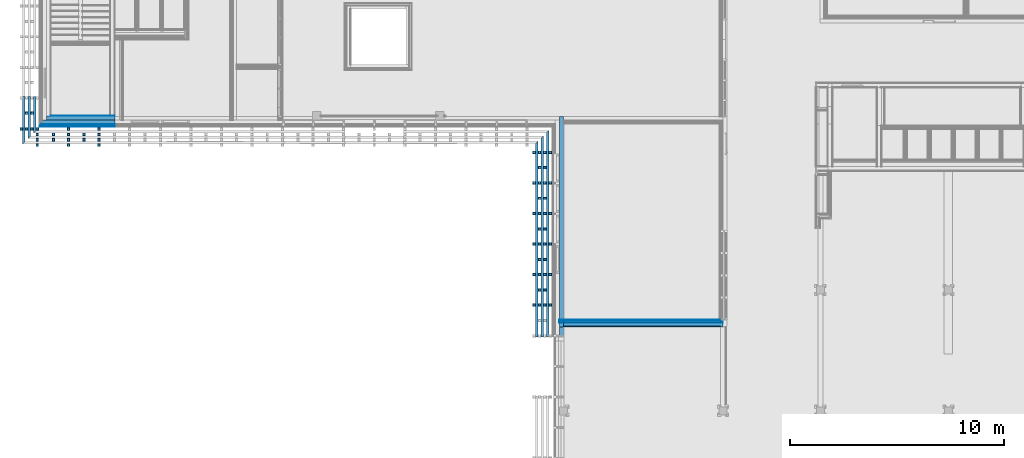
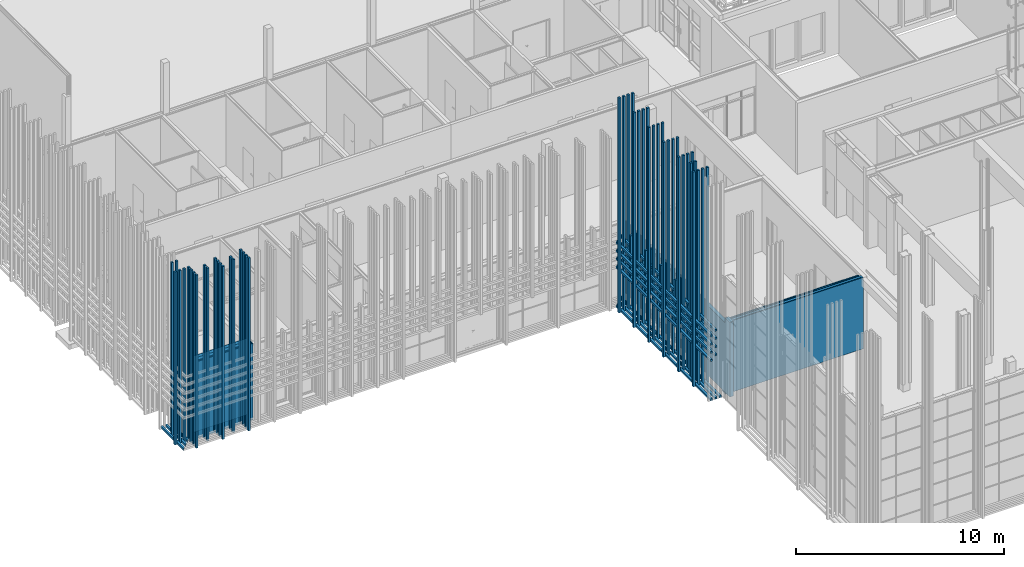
# One storey, part 147 of 260: 24 discrete accessories, 15 building element parts, 4 openings, 3 elements without a shape of their own.
"""IFC2X3 building model written with IfcOpenShell, lengths in millimetres."""

from ifc_helpers import new_model, entity, si_unit, converted_unit, derived_unit, money_unit, direction, frame, origin_with_axes, place, context, subcontext, project, spatial, faceted_brep, material, material_list, type_object, element, aggregate, save


model = new_model("IFC2X3")

# Units and contexts
model_context = context("Model", 3, precision=0.01, world=origin_with_axes(), true_north=direction((0.0, 1.0)))
body_context = subcontext(model_context, "Body", "Model", "MODEL_VIEW")
ifc_project = project(units=[si_unit("LENGTHUNIT", "METRE", prefix="MILLI"), si_unit("AREAUNIT", "SQUARE_METRE"), si_unit("VOLUMEUNIT", "CUBIC_METRE"), converted_unit("PLANEANGLEUNIT", "DEGREE", entity("IfcPlaneAngleMeasure", 0.0174532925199), si_unit("PLANEANGLEUNIT", "RADIAN"), dimensions=[0, 0, 0, 0, 0, 0, 0]), money_unit("EUR"), converted_unit("TIMEUNIT", "Year", entity("IfcTimeMeasure", 31556926.0), si_unit("TIMEUNIT", "SECOND"), dimensions=[0, 0, 1, 0, 0, 0, 0]), si_unit("MASSUNIT", "GRAM", prefix="KILO"), si_unit("THERMODYNAMICTEMPERATUREUNIT", "DEGREE_CELSIUS"), si_unit("LUMINOUSINTENSITYUNIT", "LUMEN"), si_unit("ENERGYUNIT", "JOULE", prefix="MEGA"), derived_unit("THERMALCONDUCTANCEUNIT", [(si_unit("POWERUNIT", "WATT"), 1), (si_unit("LENGTHUNIT", "METRE"), -1), (si_unit("THERMODYNAMICTEMPERATUREUNIT", "KELVIN"), -1)]), derived_unit("SPECIFICHEATCAPACITYUNIT", [(si_unit("ENERGYUNIT", "JOULE"), 1), (si_unit("MASSUNIT", "GRAM", prefix="KILO"), -1), (si_unit("THERMODYNAMICTEMPERATUREUNIT", "KELVIN"), -1)]), derived_unit("MASSDENSITYUNIT", [(si_unit("MASSUNIT", "GRAM", prefix="KILO"), 1), (si_unit("VOLUMEUNIT", "CUBIC_METRE"), -1)])], contexts=[model_context])

# Site, building, storey
site_placement = place(None, origin_with_axes())
site = spatial("IfcSite", under=ifc_project, at=site_placement, Name="Kolde pst 67a", CompositionType="ELEMENT")
building_placement = place(site_placement, origin_with_axes())
building = spatial("IfcBuilding", under=site, at=building_placement, Name="Riigigümnaasium", CompositionType="ELEMENT")
storey_placement = place(building_placement, origin_with_axes())
storey = spatial("IfcBuildingStorey", under=building, at=storey_placement, Name="1. korrus", CompositionType="ELEMENT", Elevation=0.0)

# Discrete accessories
ifc_material_1 = material(Name="_VÄLISVIIMISTLUS - sõrmjätkatud puitprussid 120x115mm, liitekohad vähemärgatavad, Platowood sõrmjätkatud kuusk või samaväärne; eeltöödeldud tuletõkkevõõbaga, tuletundlikkus B-s1, d0, Woodsafe Exterior WFX™ või samaväärne; kinnitused vastavalt EK osale")
ifc_material_list_1 = material_list([ifc_material_1, ifc_material_1, ifc_material_1, ifc_material_1])
discrete_accessory_type_1 = type_object("IfcDiscreteAccessoryType", Name="120 4-ne vertikaalne 870 x 115")
for number, where, z_axis, x_axis in (
    (1, (-310.003212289, 47630.6759201, 280.0), (0.0, 0.0, 1.0), (0.999999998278, -5.86859191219e-05, 0.0)),
    (2, (1067.50074689, 47693.6740421, 280.0), (0.0, 0.0, 1.0), (5.86859191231e-05, 0.999999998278, 0.0)),
    (3, (2497.50220495, 47693.6206398, 280.0), (0.0, 0.0, 1.0), (5.86859191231e-05, 0.999999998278, 0.0)),
):
    element("IfcDiscreteAccessory", number, at=place(storey_placement, frame(where, z_axis=z_axis, x_axis=x_axis)), inside=storey, type_object=discrete_accessory_type_1, material=ifc_material_list_1, Name="Päikesevarjestus", context=body_context, shape_type="Brep", body=[
        faceted_brep([(-133.0, -70.0, 0.0), (-13.0, -70.0, 0.0), (-13.0, -70.0, 10140.0), (-133.0, -70.0, 10140.0), (-133.0, 45.0, 0.0), (-13.0, 45.0, 0.0), (-13.0, 45.0, 10140.0), (-133.0, 45.0, 10140.0)], [[[0, 1, 2, 3]], [[0, 4, 5, 1]], [[1, 5, 6, 2]], [[3, 2, 6, 7]], [[4, 0, 3, 7]], [[5, 4, 7, 6]]]),
        faceted_brep([(-383.0, -70.0, 0.0), (-263.0, -70.0, 0.0), (-263.0, -70.0, 10140.0), (-383.0, -70.0, 10140.0), (-383.0, 45.0, 0.0), (-263.0, 45.0, 0.0), (-263.0, 45.0, 10140.0), (-383.0, 45.0, 10140.0)], [[[0, 1, 2, 3]], [[0, 4, 5, 1]], [[1, 5, 6, 2]], [[3, 2, 6, 7]], [[4, 0, 3, 7]], [[5, 4, 7, 6]]]),
        faceted_brep([(-633.0, -70.0, 0.0), (-513.0, -70.0, 0.0), (-513.0, -70.0, 10140.0), (-633.0, -70.0, 10140.0), (-633.0, 45.0, 0.0), (-513.0, 45.0, 0.0), (-513.0, 45.0, 10140.0), (-633.0, 45.0, 10140.0)], [[[0, 1, 2, 3]], [[0, 4, 5, 1]], [[1, 5, 6, 2]], [[3, 2, 6, 7]], [[4, 0, 3, 7]], [[5, 4, 7, 6]]]),
        faceted_brep([(-883.0, -70.0, 0.0), (-763.0, -70.0, 0.0), (-763.0, -70.0, 10140.0), (-883.0, -70.0, 10140.0), (-883.0, 45.0, 0.0), (-763.0, 45.0, 0.0), (-763.0, 45.0, 10140.0), (-883.0, 45.0, 10140.0)], [[[0, 1, 2, 3]], [[0, 4, 5, 1]], [[1, 5, 6, 2]], [[3, 2, 6, 7]], [[4, 0, 3, 7]], [[5, 4, 7, 6]]]),
    ])
for number, where, z_axis, x_axis in (
    (4, (23688.0028833, 39393.0027259, 280.0), (0.0, 0.0, 1.0), (0.999999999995, 3.13999128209e-06, 0.0)),
    (5, (23688.0027342, 42253.0031576, 280.0), (0.0, 0.0, 1.0), (0.999999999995, 3.13999128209e-06, 0.0)),
    (6, (23688.0060415, 43683.0036089, 280.0), (0.0, 0.0, 1.0), (0.999999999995, 3.13999128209e-06, 0.0)),
    (7, (23688.0060415, 45113.0036089, 280.0), (0.0, 0.0, 1.0), (0.999999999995, 3.13999128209e-06, 0.0)),
    (8, (23688.0060415, 46543.0036033, 280.0), (0.0, 0.0, 1.0), (0.999999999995, 3.13999128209e-06, 0.0)),
    (9, (23688.0060415, 40823.0027197, 280.0), (0.0, 0.0, 1.0), (0.999999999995, 3.13999128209e-06, 0.0)),
):
    element("IfcDiscreteAccessory", number, at=place(storey_placement, frame(where, z_axis=z_axis, x_axis=x_axis)), inside=storey, type_object=discrete_accessory_type_1, material=ifc_material_list_1, Name="Päikesevarjestus", context=body_context, shape_type="Brep", body=[
        faceted_brep([(-133.0, -70.0, 0.0), (-13.0, -70.0, 0.0), (-13.0, -70.0, 12600.0), (-133.0, -70.0, 12600.0), (-133.0, 45.0, 0.0), (-13.0, 45.0, 0.0), (-13.0, 45.0, 12600.0), (-133.0, 45.0, 12600.0)], [[[0, 1, 2, 3]], [[0, 4, 5, 1]], [[1, 5, 6, 2]], [[3, 2, 6, 7]], [[4, 0, 3, 7]], [[5, 4, 7, 6]]]),
        faceted_brep([(-383.0, -70.0, 0.0), (-263.0, -70.0, 0.0), (-263.0, -70.0, 12600.0), (-383.0, -70.0, 12600.0), (-383.0, 45.0, 0.0), (-263.0, 45.0, 0.0), (-263.0, 45.0, 12600.0), (-383.0, 45.0, 12600.0)], [[[0, 1, 2, 3]], [[0, 4, 5, 1]], [[1, 5, 6, 2]], [[3, 2, 6, 7]], [[4, 0, 3, 7]], [[5, 4, 7, 6]]]),
        faceted_brep([(-633.0, -70.0, 0.0), (-513.0, -70.0, 0.0), (-513.0, -70.0, 12600.0), (-633.0, -70.0, 12600.0), (-633.0, 45.0, 0.0), (-513.0, 45.0, 0.0), (-513.0, 45.0, 12600.0), (-633.0, 45.0, 12600.0)], [[[0, 1, 2, 3]], [[0, 4, 5, 1]], [[1, 5, 6, 2]], [[3, 2, 6, 7]], [[4, 0, 3, 7]], [[5, 4, 7, 6]]]),
        faceted_brep([(-883.0, -70.0, 0.0), (-763.0, -70.0, 0.0), (-763.0, -70.0, 12600.0), (-883.0, -70.0, 12600.0), (-883.0, 45.0, 0.0), (-763.0, 45.0, 0.0), (-763.0, 45.0, 12600.0), (-883.0, 45.0, 12600.0)], [[[0, 1, 2, 3]], [[0, 4, 5, 1]], [[1, 5, 6, 2]], [[3, 2, 6, 7]], [[4, 0, 3, 7]], [[5, 4, 7, 6]]]),
    ])
ifc_material_list_2 = material_list([ifc_material_1, ifc_material_1, ifc_material_1])
discrete_accessory_type_2 = type_object("IfcDiscreteAccessoryType", Name="120 4-ne vertikaalne -1 nurgaribi 620 x 115")
discrete_accessory_1_placement = place(storey_placement, frame((-397.499661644, 47693.9808308, 280.0), z_axis=(0.0, 0.0, 1.0), x_axis=(5.86859191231e-05, 0.999999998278, 0.0)))
element("IfcDiscreteAccessory", 10, at=discrete_accessory_1_placement, inside=storey, type_object=discrete_accessory_type_2, material=ifc_material_list_2, Name="Päikesevarjestus", context=body_context, shape_type="Brep", body=[
    faceted_brep([(-383.0, -70.0, 0.0), (-263.0, -70.0, 0.0), (-263.0, -70.0, 10140.0), (-383.0, -70.0, 10140.0), (-383.0, 45.0, 0.0), (-263.0, 45.0, 0.0), (-263.0, 45.0, 10140.0), (-383.0, 45.0, 10140.0)], [[[0, 1, 2, 3]], [[0, 4, 5, 1]], [[1, 5, 6, 2]], [[3, 2, 6, 7]], [[4, 0, 3, 7]], [[5, 4, 7, 6]]]),
    faceted_brep([(-633.0, -70.0, 0.0), (-513.0, -70.0, 0.0), (-513.0, -70.0, 10140.0), (-633.0, -70.0, 10140.0), (-633.0, 45.0, 0.0), (-513.0, 45.0, 0.0), (-513.0, 45.0, 10140.0), (-633.0, 45.0, 10140.0)], [[[0, 1, 2, 3]], [[0, 4, 5, 1]], [[1, 5, 6, 2]], [[3, 2, 6, 7]], [[4, 0, 3, 7]], [[5, 4, 7, 6]]]),
    faceted_brep([(-883.0, -70.0, 0.0), (-763.0, -70.0, 0.0), (-763.0, -70.0, 10140.0), (-883.0, -70.0, 10140.0), (-883.0, 45.0, 0.0), (-763.0, 45.0, 0.0), (-763.0, 45.0, 10140.0), (-883.0, 45.0, 10140.0)], [[[0, 1, 2, 3]], [[0, 4, 5, 1]], [[1, 5, 6, 2]], [[3, 2, 6, 7]], [[4, 0, 3, 7]], [[5, 4, 7, 6]]]),
])
discrete_accessory_type_3 = type_object("IfcDiscreteAccessoryType", Name="120 1+paiksekaitse 3 tk  620 x 115")
discrete_accessory_2_placement = place(storey_placement, frame((23675.0058924, 47680.7164087, 352.5), z_axis=(0.0, 0.0, 1.0), x_axis=(-0.999999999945, -1.04678565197e-05, 0.0)))
element("IfcDiscreteAccessory", 11, at=discrete_accessory_2_placement, inside=storey, type_object=discrete_accessory_type_3, material=ifc_material_list_2, Name="Päikesevarjestus", context=body_context, shape_type="Brep", body=[
    faceted_brep([(625.0, 9787.72000688, 45.0), (625.0, 624.993457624, 45.0), (745.0, 744.992201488, 45.0), (745.0, 9787.72000688, 45.0), (625.0, 9787.72000688, -70.0), (625.0, 624.993457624, -70.0), (745.0, 744.992201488, -70.0), (745.0, 9787.72000688, -70.0)], [[[0, 1, 2, 3]], [[4, 5, 1, 0]], [[5, 6, 2, 1]], [[3, 2, 6, 7]], [[4, 0, 3, 7]], [[7, 6, 5, 4]]]),
    faceted_brep([(375.0, 9787.72000688, 45.0), (375.0, 374.996074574, 45.0), (495.0, 494.994818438, 45.0), (495.0, 9787.72000688, 45.0), (375.0, 9787.72000688, -70.0), (375.0, 374.996074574, -70.0), (495.0, 494.994818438, -70.0), (495.0, 9787.72000688, -70.0)], [[[0, 1, 2, 3]], [[4, 5, 1, 0]], [[5, 6, 2, 1]], [[3, 2, 6, 7]], [[4, 0, 3, 7]], [[7, 6, 5, 4]]]),
    faceted_brep([(125.0, 9787.72000688, 45.0), (125.0, 124.998691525, 45.0), (245.0, 244.997435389, 45.0), (245.0, 9787.72000688, 45.0), (125.0, 9787.72000688, -70.0), (125.0, 124.998691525, -70.0), (245.0, 244.997435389, -70.0), (245.0, 9787.72000688, -70.0)], [[[0, 1, 2, 3]], [[4, 5, 1, 0]], [[5, 6, 2, 1]], [[3, 2, 6, 7]], [[4, 0, 3, 7]], [[7, 6, 5, 4]]]),
])
discrete_accessory_3_placement = place(storey_placement, frame((-323.006917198, 49141.1129673, 352.5), z_axis=(0.0, 0.0, 1.0), x_axis=(-0.99999999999, 4.54011440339e-06, 0.0)))
element("IfcDiscreteAccessory", 12, at=discrete_accessory_3_placement, inside=storey, type_object=discrete_accessory_type_3, material=ifc_material_list_2, Name="Päikesevarjestus", context=body_context, shape_type="Brep", body=[
    faceted_brep([(625.0, 2092.71485588, 45.0), (625.0, 0.0, 45.0), (745.0, 0.0, 45.0), (745.0, 2212.77416003, 45.0), (625.0, 2092.71485588, -70.0), (625.0, 0.0, -70.0), (745.0, 0.0, -70.0), (745.0, 2212.77416003, -70.0)], [[[0, 1, 2, 3]], [[4, 5, 1, 0]], [[5, 6, 2, 1]], [[3, 2, 6, 7]], [[4, 0, 3, 7]], [[7, 6, 5, 4]]]),
    faceted_brep([(375.0, 1842.59130556, 45.0), (375.0, 0.0, 45.0), (495.0, 0.0, 45.0), (495.0, 1962.65060971, 45.0), (375.0, 1842.59130556, -70.0), (375.0, 0.0, -70.0), (495.0, 0.0, -70.0), (495.0, 1962.65060971, -70.0)], [[[0, 1, 2, 3]], [[4, 5, 1, 0]], [[5, 6, 2, 1]], [[3, 2, 6, 7]], [[4, 0, 3, 7]], [[7, 6, 5, 4]]]),
    faceted_brep([(125.0, 1592.46775524, 45.0), (125.0, 0.0, 45.0), (245.0, 0.0, 45.0), (245.0, 1712.5270594, 45.0), (125.0, 1592.46775524, -70.0), (125.0, 0.0, -70.0), (245.0, 0.0, -70.0), (245.0, 1712.5270594, -70.0)], [[[0, 1, 2, 3]], [[4, 5, 1, 0]], [[5, 6, 2, 1]], [[3, 2, 6, 7]], [[4, 0, 3, 7]], [[7, 6, 5, 4]]]),
])
ifc_material_list_3 = material_list([ifc_material_1, ifc_material_1])
discrete_accessory_type_4 = type_object("IfcDiscreteAccessoryType", Name="1+paiksekaitse 4 tk nihkes 2 370 x 355")
discrete_accessory_4_placement = place(storey_placement, frame((23675.0058924, 47681.0480922, 2580.00014213), z_axis=(0.0, 0.0, 1.0), x_axis=(-0.999999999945, -1.04675018e-05, 0.0)))
element("IfcDiscreteAccessory", 13, at=discrete_accessory_4_placement, inside=storey, type_object=discrete_accessory_type_4, material=ifc_material_list_3, Name="Päikesevarjestus", context=body_context, shape_type="Brep", body=[
    faceted_brep([(375.0, 9788.05169036, 347.001360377), (375.0, 375.110711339, 347.001360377), (495.0, 495.146138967, 357.5), (495.0, 9788.05169036, 357.5), (375.0, 9788.05169036, 242.5), (375.0, 375.110711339, 242.5), (495.0, 495.146138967, 242.5), (495.0, 9788.05169036, 242.5)], [[[0, 1, 2, 3]], [[4, 5, 1, 0]], [[5, 6, 2, 1]], [[3, 2, 6, 7]], [[4, 0, 3, 7]], [[7, 6, 5, 4]]]),
    faceted_brep([(625.0, 9788.05169036, 107.001360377), (625.0, 625.184518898, 107.001360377), (745.0, 745.219946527, 117.5), (745.0, 9788.05169036, 117.5), (625.0, 9788.05169036, 2.5), (625.0, 625.184518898, 2.5), (745.0, 745.219946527, 2.5), (745.0, 9788.05169036, 2.5)], [[[0, 1, 2, 3]], [[4, 5, 1, 0]], [[5, 6, 2, 1]], [[3, 2, 6, 7]], [[4, 0, 3, 7]], [[7, 6, 5, 4]]]),
])
for number, where, z_axis, x_axis in (
    (14, (23675.0058924, 47681.0323401, 3060.00014213), (0.0, 0.0, 1.0), (-0.999999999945, -1.04675186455e-05, 0.0)),
    (15, (23675.0058924, 47681.0323401, 3540.00014213), (0.0, 0.0, 1.0), (-0.999999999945, -1.04675186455e-05, 0.0)),
    (16, (23675.0058924, 47681.0323401, 4020.00014213), (0.0, 0.0, 1.0), (-0.999999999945, -1.04675186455e-05, 0.0)),
):
    element("IfcDiscreteAccessory", number, at=place(storey_placement, frame(where, z_axis=z_axis, x_axis=x_axis)), inside=storey, type_object=discrete_accessory_type_4, material=ifc_material_list_3, Name="Päikesevarjestus", context=body_context, shape_type="Brep", body=[
        faceted_brep([(375.0, 9788.03593826, 347.001360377), (375.0, 375.110464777, 347.001360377), (495.0, 495.145813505, 357.5), (495.0, 9788.03593826, 357.5), (375.0, 9788.03593826, 242.5), (375.0, 375.110464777, 242.5), (495.0, 495.145813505, 242.5), (495.0, 9788.03593826, 242.5)], [[[0, 1, 2, 3]], [[4, 5, 1, 0]], [[5, 6, 2, 1]], [[3, 2, 6, 7]], [[4, 0, 3, 7]], [[7, 6, 5, 4]]]),
        faceted_brep([(625.0, 9788.03593826, 107.001360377), (625.0, 625.184107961, 107.001360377), (745.0, 745.219456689, 117.5), (745.0, 9788.03593826, 117.5), (625.0, 9788.03593826, 2.5), (625.0, 625.184107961, 2.5), (745.0, 745.219456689, 2.5), (745.0, 9788.03593826, 2.5)], [[[0, 1, 2, 3]], [[4, 5, 1, 0]], [[5, 6, 2, 1]], [[3, 2, 6, 7]], [[4, 0, 3, 7]], [[7, 6, 5, 4]]]),
    ])
discrete_accessory_type_5 = type_object("IfcDiscreteAccessoryType", Name="1+paiksekaitse 3 370 x 115")
for number, where, z_axis, x_axis in (
    (17, (1854.9643617, 46713.6768307, 280.0), (0.0, 0.0, 1.0), (0.0, 1.0, 0.0)),
    (18, (424.964361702, 46713.6768301, 280.0), (0.0, 0.0, 1.0), (0.0, 1.0, 0.0)),
    (19, (-1289.99999959, 48306.0633419, 280.0), (0.0, 0.0, 1.0), (1.0, 0.0, 0.0)),
):
    element("IfcDiscreteAccessory", number, at=place(storey_placement, frame(where, z_axis=z_axis, x_axis=x_axis)), inside=storey, type_object=discrete_accessory_type_5, material=ifc_material_list_3, Name="Päikesevarjestus", context=body_context, shape_type="Brep", body=[
        faceted_brep([(467.0, 117.5, 0.0), (347.0, 117.5, 0.0), (347.0, 117.5, 10140.0), (467.0, 117.5, 10140.0), (467.0, 2.5, 0.0), (347.0, 2.5, 0.0), (347.0, 2.5, 10140.0), (467.0, 2.5, 10140.0)], [[[0, 1, 2, 3]], [[0, 4, 5, 1]], [[1, 5, 6, 2]], [[3, 2, 6, 7]], [[4, 0, 3, 7]], [[5, 4, 7, 6]]]),
        faceted_brep([(717.0, 117.5, 0.0), (597.0, 117.5, 0.0), (597.0, 117.5, 10140.0), (717.0, 117.5, 10140.0), (717.0, 2.5, 0.0), (597.0, 2.5, 0.0), (597.0, 2.5, 10140.0), (717.0, 2.5, 10140.0)], [[[0, 1, 2, 3]], [[0, 4, 5, 1]], [[1, 5, 6, 2]], [[3, 2, 6, 7]], [[4, 0, 3, 7]], [[5, 4, 7, 6]]]),
    ])
for number, where, z_axis, x_axis in (
    (20, (22708.1079799, 45755.2789482, 2580.00014213), (0.0, 0.0, 1.0), (1.0, 0.0, 0.0)),
    (21, (22708.1079799, 44325.0016878, 2580.00014213), (0.0, 0.0, 1.0), (1.0, 0.0, 0.0)),
    (22, (22708.1079799, 42895.2789482, 2580.00014213), (0.0, 0.0, 1.0), (1.0, 0.0, 0.0)),
    (23, (22708.1079799, 41465.0016878, 2580.00014213), (0.0, 0.0, 1.0), (1.0, 0.0, 0.0)),
):
    element("IfcDiscreteAccessory", number, at=place(storey_placement, frame(where, z_axis=z_axis, x_axis=x_axis)), inside=storey, type_object=discrete_accessory_type_5, material=ifc_material_list_3, Name="Päikesevarjestus", context=body_context, shape_type="Brep", body=[
        faceted_brep([(467.0, 117.5, 0.0), (347.0, 117.5, 0.0), (347.0, 117.5, 2570.0), (467.0, 117.5, 2570.0), (467.0, 2.5, 0.0), (347.0, 2.5, 0.0), (347.0, 2.5, 2570.0), (467.0, 2.5, 2570.0)], [[[0, 1, 2, 3]], [[0, 4, 5, 1]], [[1, 5, 6, 2]], [[3, 2, 6, 7]], [[4, 0, 3, 7]], [[5, 4, 7, 6]]]),
        faceted_brep([(717.0, 117.5, 0.0), (597.0, 117.5, 0.0), (597.0, 117.5, 2570.0), (717.0, 117.5, 2570.0), (717.0, 2.5, 0.0), (597.0, 2.5, 0.0), (597.0, 2.5, 2570.0), (717.0, 2.5, 2570.0)], [[[0, 1, 2, 3]], [[0, 4, 5, 1]], [[1, 5, 6, 2]], [[3, 2, 6, 7]], [[4, 0, 3, 7]], [[5, 4, 7, 6]]]),
    ])
discrete_accessory_5_placement = place(storey_placement, frame((22708.1079799, 40035.4843006, 280.0), z_axis=(0.0, 0.0, 1.0), x_axis=(1.0, 0.0, 0.0)))
element("IfcDiscreteAccessory", 24, at=discrete_accessory_5_placement, inside=storey, type_object=discrete_accessory_type_5, material=ifc_material_list_3, Name="Päikesevarjestus", context=body_context, shape_type="Brep", body=[
    faceted_brep([(467.0, 117.5, 0.0), (347.0, 117.5, 0.0), (347.0, 117.5, 12600.0), (467.0, 117.5, 12600.0), (467.0, 2.5, 0.0), (347.0, 2.5, 0.0), (347.0, 2.5, 12600.0), (467.0, 2.5, 12600.0)], [[[0, 1, 2, 3]], [[0, 4, 5, 1]], [[1, 5, 6, 2]], [[3, 2, 6, 7]], [[4, 0, 3, 7]], [[5, 4, 7, 6]]]),
    faceted_brep([(717.0, 117.5, 0.0), (597.0, 117.5, 0.0), (597.0, 117.5, 12600.0), (717.0, 117.5, 12600.0), (717.0, 2.5, 0.0), (597.0, 2.5, 0.0), (597.0, 2.5, 12600.0), (717.0, 2.5, 12600.0)], [[[0, 1, 2, 3]], [[0, 4, 5, 1]], [[1, 5, 6, 2]], [[3, 2, 6, 7]], [[4, 0, 3, 7]], [[5, 4, 7, 6]]]),
])

# Wall, building element parts
wall_type_1 = type_object("IfcWallType", Name="VS-RB-20/1_soojust 200+laudis 522", PredefinedType="NOTDEFINED")
wall_1_placement = place(storey_placement, frame((40.0563582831, 48039.9808308, 100.0), z_axis=(0.0, 0.0, 1.0), x_axis=(1.0, 0.0, 0.0)))
wall_1 = element("IfcWall", 25, at=wall_1_placement, inside=storey, type_object=wall_type_1, Name="Välissein")
ifc_material_2 = material(Name="_VIIMISTLUSKIHT - viimistlus vastavalt SA osale")
building_element_part_1_placement = place(wall_1_placement, origin_with_axes())
building_element_part_1 = element("IfcBuildingElementPart", 26, at=building_element_part_1_placement, material=ifc_material_2, Name="_VIIMISTLUSKIHT - viimistlus vastavalt SA osale", context=body_context, shape_type="Brep", body=[
    faceted_brep([(2999.88404014, 210.0, 2755.0), (200.000000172, 210.0, 2755.0), (200.0, 210.0, 4500.0), (3199.8837175, 210.0, 4500.0), (3199.8837175, 210.0, 0.0), (200.0, 210.0, 0.0), (200.000000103, 210.0, 2464.99999996), (2999.88404032, 210.0, 2464.99999996), (2999.88404014, 200.017117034, 2755.0), (200.000000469, 200.017117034, 2755.0), (200.00000041, 200.017116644, 2464.99999996), (200.0, 200.0, 0.0), (200.0, 200.0, 4500.0), (3199.8837175, 200.0, 4500.0), (3199.8837175, 200.0, 0.0), (2999.88404032, 200.017116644, 2464.99999996)], [[[0, 1, 2, 3, 4, 5, 6, 7]], [[1, 0, 8, 9]], [[9, 10, 6, 5, 11, 12, 2, 1]], [[12, 13, 3, 2]], [[14, 4, 3, 13]], [[5, 4, 14, 11]], [[7, 6, 10, 15]], [[8, 0, 7, 15]], [[9, 8, 15, 10]], [[11, 14, 13, 12]]]),
])
ifc_material_3 = material(Name="_KANDETARIND - monteeritav raudbetoon vastavalt EK osale")
building_element_part_2_placement = place(wall_1_placement, origin_with_axes())
building_element_part_2 = element("IfcBuildingElementPart", 27, at=building_element_part_2_placement, material=ifc_material_3, Name="_KANDETARIND - monteeritav raudbetoon vastavalt EK osale", context=body_context, shape_type="Brep", body=[
    faceted_brep([(3199.8837175, 200.0, 0.0), (3199.8837175, 0.0, 0.0), (0.0, 0.0, 0.0), (0.0, 200.0, 0.0), (3199.8837175, 200.0, 4500.0), (3199.8837175, 0.0, 4500.0), (0.0, 0.0, 4500.0), (0.0, 200.0, 4500.0)], [[[0, 1, 2, 3]], [[0, 4, 5, 1]], [[1, 5, 6, 2]], [[3, 2, 6, 7]], [[4, 0, 3, 7]], [[5, 4, 7, 6]]]),
])
ifc_material_4 = material(Name="_SOOJUSTUS - mineraalvill, λD<0,032 W/(mK), kuumtsingitud lehtteras termoroovidega, S350GD+Zn275 vastavalt EN10346, ISOVER EXTREME 32 200mm või samaväärne")
building_element_part_3_placement = place(wall_1_placement, origin_with_axes())
building_element_part_3 = element("IfcBuildingElementPart", 28, at=building_element_part_3_placement, material=ifc_material_4, Name="_SOOJUSTUS - mineraalvill, λD<0,032 W/(mK), kuumtsingitud lehtteras termoroovidega, S350GD+Zn275 vastavalt EN10346, ISOVER EXTREME 32 200mm või samaväärne", context=body_context, shape_type="Brep", body=[
    faceted_brep([(3199.8837175, 0.0, 0.0), (3199.8837175, -200.0, 0.0), (-200.0, -200.0, 0.0), (-200.0, 0.0, 0.0), (3199.8837175, 0.0, 4500.0), (3199.8837175, -200.0, 4500.0), (-200.0, -200.0, 4500.0), (-200.0, 0.0, 4500.0)], [[[0, 1, 2, 3]], [[0, 4, 5, 1]], [[1, 5, 6, 2]], [[3, 2, 6, 7]], [[4, 0, 3, 7]], [[5, 4, 7, 6]]]),
])
ifc_material_5 = material(Name="_TUULETÕKE - tuuletõkkeplaat, soojuserijuhtivus λD<0,031 W/(mK), ISOVER RKL FACADE või samaväärne, liitekohad katta tihendusteibiga ISOVER FacadeTape või samaväärne")
building_element_part_4_placement = place(wall_1_placement, origin_with_axes())
building_element_part_4 = element("IfcBuildingElementPart", 29, at=building_element_part_4_placement, material=ifc_material_5, Name="_TUULETÕKE - tuuletõkkeplaat, soojuserijuhtivus λD<0,031 W/(mK), ISOVER RKL FACADE või samaväärne, liitekohad katta tihendusteibiga ISOVER FacadeTape või samaväärne", context=body_context, shape_type="Brep", body=[
    faceted_brep([(3199.8837175, -200.0, 0.0), (3199.8837175, -230.0, 0.0), (-230.0, -230.0, 0.0), (-230.0, -200.0, 0.0), (3199.8837175, -200.0, 4500.0), (3199.8837175, -230.0, 4500.0), (-230.0, -230.0, 4500.0), (-230.0, -200.0, 4500.0)], [[[0, 1, 2, 3]], [[0, 4, 5, 1]], [[1, 5, 6, 2]], [[3, 2, 6, 7]], [[4, 0, 3, 7]], [[5, 4, 7, 6]]]),
])
ifc_material_6 = material(Name="_KARKASS - puitroov 32x50mm vertikaalne, immutatud Driconi tulekaitsevahendiga või samaväärne, samm 600mm")
building_element_part_5_placement = place(wall_1_placement, origin_with_axes())
building_element_part_5 = element("IfcBuildingElementPart", 30, at=building_element_part_5_placement, material=ifc_material_6, Name="_KARKASS - puitroov 32x50mm vertikaalne, immutatud Driconi tulekaitsevahendiga või samaväärne, samm 600mm", context=body_context, shape_type="Brep", body=[
    faceted_brep([(3199.8837175, -230.0, 0.0), (3199.8837175, -262.0, 0.0), (-262.0, -262.0, 0.0), (-262.0, -230.0, 0.0), (3199.8837175, -230.0, 4500.0), (3199.8837175, -262.0, 4500.0), (-262.0, -262.0, 4500.0), (-262.0, -230.0, 4500.0)], [[[0, 1, 2, 3]], [[0, 4, 5, 1]], [[1, 5, 6, 2]], [[3, 2, 6, 7]], [[4, 0, 3, 7]], [[5, 4, 7, 6]]]),
])
ifc_material_7 = material(Name="_KARKASS - puitroov 32x50mm horisontaalne, immutatud Driconi tulekaitsevahendiga või samaväärne, samm 600mm")
building_element_part_6_placement = place(wall_1_placement, origin_with_axes())
building_element_part_6 = element("IfcBuildingElementPart", 31, at=building_element_part_6_placement, material=ifc_material_7, Name="_KARKASS - puitroov 32x50mm horisontaalne, immutatud Driconi tulekaitsevahendiga või samaväärne, samm 600mm", context=body_context, shape_type="Brep", body=[
    faceted_brep([(3199.8837175, -262.0, 0.0), (3199.8837175, -294.0, 0.0), (-294.0, -294.0, 0.0), (-294.0, -262.0, 0.0), (3199.8837175, -262.0, 4500.0), (3199.8837175, -294.0, 4500.0), (-294.0, -294.0, 4500.0), (-294.0, -262.0, 4500.0)], [[[0, 1, 2, 3]], [[0, 4, 5, 1]], [[1, 5, 6, 2]], [[3, 2, 6, 7]], [[4, 0, 3, 7]], [[5, 4, 7, 6]]]),
])
ifc_material_8 = material(Name="_VÄLISVIIMISTLUS - vertikaalne voodrilaud, Platowood P01 profiil 18x140mm, kuusk; eeltöödeldud tuletõkkega mõlemad küljed, B-s1, d0, Woodsafe Exterior WFX™ või samaväärne")
building_element_part_7_placement = place(wall_1_placement, origin_with_axes())
building_element_part_7 = element("IfcBuildingElementPart", 32, at=building_element_part_7_placement, material=ifc_material_8, Name="_VÄLISVIIMISTLUS - vertikaalne voodrilaud, Platowood P01 profiil 18x140mm, kuusk; eeltöödeldud tuletõkkega mõlemad küljed, B-s1, d0, Woodsafe Exterior WFX™ või samaväärne", context=body_context, shape_type="Brep", body=[
    faceted_brep([(3199.8837175, -294.0, 0.0), (3199.8837175, -312.0, 0.0), (-312.0, -312.0, 0.0), (-312.0, -294.0, 0.0), (3199.8837175, -294.0, 4500.0), (3199.8837175, -312.0, 4500.0), (-312.0, -312.0, 4500.0), (-312.0, -294.0, 4500.0)], [[[0, 1, 2, 3]], [[0, 4, 5, 1]], [[1, 5, 6, 2]], [[3, 2, 6, 7]], [[4, 0, 3, 7]], [[5, 4, 7, 6]]]),
])
aggregate(wall_1, [building_element_part_1, building_element_part_2, building_element_part_3, building_element_part_4, building_element_part_5, building_element_part_6, building_element_part_7])

# Wall, openings, building element part
wall_type_2 = type_object("IfcWallType", Name="VS-CLT-20/1 512", PredefinedType="NOTDEFINED")
wall_2_placement = place(storey_placement, frame((24040.0027342, 48039.9808308, 100.0), z_axis=(0.0, 0.0, 1.0), x_axis=(0.0, -1.0, 0.0)))
wall_2 = element("IfcWall", 33, at=wall_2_placement, inside=storey, type_object=wall_type_2, Name="Välissein")
opening_1_placement = place(wall_2_placement, frame((2237.47715845, 0.0, 300.0), z_axis=(0.0, 0.0, 1.0), x_axis=(1.0, 0.0, 0.0)))
element("IfcOpeningElement", 34, at=opening_1_placement, cuts=wall_2, Name="Välisaken", context=body_context, shape_type="Brep", body=[
    faceted_brep([(-655.0, -122.0, 0.0), (-655.0, -122.0, 2400.0), (-655.0, 712.0, 2400.0), (-655.0, 712.0, 0.0), (655.0, -122.0, 0.0), (655.0, -122.0, 2400.0), (655.0, 712.0, 2400.0), (655.0, 712.0, 0.0)], [[[0, 1, 2, 3]], [[0, 4, 5, 1]], [[1, 5, 6, 2]], [[3, 2, 6, 7]], [[4, 0, 3, 7]], [[5, 4, 7, 6]]]),
    faceted_brep([(-655.0, -122.0, 2400.0), (-655.0, -122.0, 0.0), (-655.0, -824.0, 0.0), (-655.0, -824.0, 2400.0), (655.0, -122.0, 2400.0), (655.0, -122.0, 0.0), (655.0, -824.0, 0.0), (655.0, -824.0, 2400.0)], [[[0, 1, 2, 3]], [[0, 4, 5, 1]], [[1, 5, 6, 2]], [[3, 2, 6, 7]], [[4, 0, 3, 7]], [[5, 4, 7, 6]]]),
])
opening_2_placement = place(wall_2_placement, frame((6527.47760418, 0.0, 300.0), z_axis=(0.0, 0.0, 1.0), x_axis=(1.0, 0.0, 0.0)))
element("IfcOpeningElement", 35, at=opening_2_placement, cuts=wall_2, Name="Välisaken", context=body_context, shape_type="Brep", body=[
    faceted_brep([(655.0, 712.0, 0.0), (655.0, 712.0, 2400.0), (655.0, -122.0, 2400.0), (655.0, -122.0, 0.0), (-655.0, 712.0, 0.0), (-655.0, 712.0, 2400.0), (-655.0, -122.0, 2400.0), (-655.0, -122.0, 0.0)], [[[0, 1, 2, 3]], [[0, 4, 5, 1]], [[1, 5, 6, 2]], [[3, 2, 6, 7]], [[4, 0, 3, 7]], [[5, 4, 7, 6]]]),
    faceted_brep([(655.0, -824.0, 2400.0), (655.0, -824.0, 0.0), (655.0, -122.0, 0.0), (655.0, -122.0, 2400.0), (-655.0, -824.0, 2400.0), (-655.0, -824.0, 0.0), (-655.0, -122.0, 0.0), (-655.0, -122.0, 2400.0)], [[[0, 1, 2, 3]], [[0, 4, 5, 1]], [[1, 5, 6, 2]], [[3, 2, 6, 7]], [[4, 0, 3, 7]], [[5, 4, 7, 6]]]),
])
opening_3_placement = place(wall_2_placement, frame((3667.47715285, 0.0, 300.0), z_axis=(0.0, 0.0, 1.0), x_axis=(1.0, 0.0, 0.0)))
element("IfcOpeningElement", 36, at=opening_3_placement, cuts=wall_2, Name="Välisaken", context=body_context, shape_type="Brep", body=[
    faceted_brep([(655.0, 712.0, 0.0), (655.0, 712.0, 2400.0), (655.0, -122.0, 2400.0), (655.0, -122.0, 0.0), (-655.0, 712.0, 0.0), (-655.0, 712.0, 2400.0), (-655.0, -122.0, 2400.0), (-655.0, -122.0, 0.0)], [[[0, 1, 2, 3]], [[0, 4, 5, 1]], [[1, 5, 6, 2]], [[3, 2, 6, 7]], [[4, 0, 3, 7]], [[5, 4, 7, 6]]]),
    faceted_brep([(655.0, -824.0, 2400.0), (655.0, -824.0, 0.0), (655.0, -122.0, 0.0), (655.0, -122.0, 2400.0), (-655.0, -824.0, 2400.0), (-655.0, -824.0, 0.0), (-655.0, -122.0, 0.0), (-655.0, -122.0, 2400.0)], [[[0, 1, 2, 3]], [[0, 4, 5, 1]], [[1, 5, 6, 2]], [[3, 2, 6, 7]], [[4, 0, 3, 7]], [[5, 4, 7, 6]]]),
])
opening_4_placement = place(wall_2_placement, frame((5097.47760418, 0.0, 300.0), z_axis=(0.0, 0.0, 1.0), x_axis=(1.0, 0.0, 0.0)))
element("IfcOpeningElement", 37, at=opening_4_placement, cuts=wall_2, Name="Välisaken", context=body_context, shape_type="Brep", body=[
    faceted_brep([(655.0, 712.0, 0.0), (655.0, 712.0, 2400.0), (655.0, -122.0, 2400.0), (655.0, -122.0, 0.0), (-655.0, 712.0, 0.0), (-655.0, 712.0, 2400.0), (-655.0, -122.0, 2400.0), (-655.0, -122.0, 0.0)], [[[0, 1, 2, 3]], [[0, 4, 5, 1]], [[1, 5, 6, 2]], [[3, 2, 6, 7]], [[4, 0, 3, 7]], [[5, 4, 7, 6]]]),
    faceted_brep([(655.0, -824.0, 2400.0), (655.0, -824.0, 0.0), (655.0, -122.0, 0.0), (655.0, -122.0, 2400.0), (-655.0, -824.0, 2400.0), (-655.0, -824.0, 0.0), (-655.0, -122.0, 0.0), (-655.0, -122.0, 2400.0)], [[[0, 1, 2, 3]], [[0, 4, 5, 1]], [[1, 5, 6, 2]], [[3, 2, 6, 7]], [[4, 0, 3, 7]], [[5, 4, 7, 6]]]),
])
ifc_material_9 = material(Name="_KANDETARIND - CLT ristkihtliimpuit vastavalt EK osale, CLT paigaldusvuugid teibitakse ROTHOBLAAS teibiga")
building_element_part_8_placement = place(wall_2_placement, origin_with_axes())
building_element_part_8 = element("IfcBuildingElementPart", 38, at=building_element_part_8_placement, material=ifc_material_9, Name="_KANDETARIND - CLT ristkihtliimpuit vastavalt EK osale, CLT paigaldusvuugid teibitakse ROTHOBLAAS teibiga", context=body_context, shape_type="Brep", body=[
    faceted_brep([(-160.0, 0.0, 0.0), (10102.4842046, 0.0, 0.0), (10102.4842046, 0.0, 4370.0), (9639.99999695, 0.0, 4370.0), (9639.99999695, 0.0, 4070.0), (0.0, 0.0, 4070.0), (-160.0, 0.0, 4070.0), (2892.47715845, 0.0, 2700.0), (2892.47715845, 0.0, 300.0), (1582.47715845, 0.0, 300.0), (1582.47715845, 0.0, 2700.0), (5872.47760418, 0.0, 2700.0), (7182.47760418, 0.0, 2700.0), (7182.47760418, 0.0, 300.0), (5872.47760418, 0.0, 300.0), (3012.47715285, 0.0, 300.0), (3012.47715285, 0.0, 2700.0), (4322.47715285, 0.0, 2700.0), (4322.47715285, 0.0, 300.0), (5752.47760418, 0.0, 300.0), (4442.47760418, 0.0, 300.0), (4442.47760418, 0.0, 2700.0), (5752.47760418, 0.0, 2700.0), (-160.0, 200.0, 0.0), (10102.4842046, 200.0, 0.0), (10102.4842046, 200.0, 4370.0), (9639.99999717, 200.0, 4370.0), (9639.99999717, 200.0, 4070.0), (-160.0, 200.0, 4070.0), (2892.47715845, 200.0, 2700.0), (2892.47715845, 200.0, 300.0), (1582.47715845, 200.0, 300.0), (1582.47715845, 200.0, 2700.0), (5872.47760418, 200.0, 2700.0), (7182.47760418, 200.0, 2700.0), (7182.47760418, 200.0, 300.0), (5872.47760418, 200.0, 300.0), (3012.47715285, 200.0, 2700.0), (3012.47715285, 200.0, 300.0), (4322.47715285, 200.0, 2700.0), (4322.47715285, 200.0, 300.0), (5752.47760418, 200.0, 300.0), (4442.47760418, 200.0, 300.0), (4442.47760418, 200.0, 2700.0), (5752.47760418, 200.0, 2700.0)], [[[0, 1, 2, 3, 4, 5, 6], [7, 8, 9, 10], [11, 12, 13, 14], [15, 16, 17, 18], [19, 20, 21, 22]], [[23, 24, 1, 0]], [[1, 24, 25, 2]], [[26, 3, 2, 25]], [[27, 4, 3, 26]], [[4, 27, 28, 6, 5]], [[6, 28, 23, 0]], [[7, 29, 30, 8]], [[8, 30, 31, 9]], [[9, 31, 32, 10]], [[10, 32, 29, 7]], [[12, 11, 33, 34]], [[13, 12, 34, 35]], [[14, 13, 35, 36]], [[11, 14, 36, 33]], [[37, 16, 15, 38]], [[39, 17, 16, 37]], [[40, 18, 17, 39]], [[38, 15, 18, 40]], [[41, 42, 20, 19]], [[42, 43, 21, 20]], [[43, 44, 22, 21]], [[44, 41, 19, 22]], [[28, 27, 26, 25, 24, 23], [31, 30, 29, 32], [33, 36, 35, 34], [39, 37, 38, 40], [41, 44, 43, 42]]]),
])
aggregate(wall_2, [building_element_part_8])

# Wall, building element parts
wall_type_3 = type_object("IfcWallType", Name="SS-CLT-20/1_vill+krohv 340", PredefinedType="NOTDEFINED")
wall_3_placement = place(storey_placement, frame((24040.0027342, 38359.9808267, 0.0), z_axis=(0.0, 0.0, 1.0), x_axis=(1.0, 0.0, 0.0)))
wall_3 = element("IfcWall", 39, at=wall_3_placement, inside=storey, type_object=wall_type_3, Name="Sisesein")
building_element_part_9_placement = place(wall_3_placement, origin_with_axes())
building_element_part_9 = element("IfcBuildingElementPart", 40, at=building_element_part_9_placement, material=ifc_material_2, Name="_VIIMISTLUSKIHT - viimistlus vastavalt SA osale", context=body_context, shape_type="Brep", body=[
    faceted_brep([(200.0, 340.0, 4170.0), (7510.00004529, 340.0, 4170.0), (7510.00004529, 340.0, 0.0), (0.0, 340.0, 0.0), (0.0, 340.0, 100.0), (200.0, 340.0, 100.0), (7510.00004529, 330.0, 4170.0), (200.0, 330.000000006, 4170.0), (7510.00004529, 330.000000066, 0.0), (0.0, 330.000001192, 0.0), (0.0, 330.000001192, 100.0), (200.0, 330.000001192, 100.0)], [[[0, 1, 2, 3, 4, 5]], [[6, 1, 0, 7]], [[1, 6, 8, 2]], [[2, 8, 9, 3]], [[9, 10, 4, 3]], [[11, 5, 4, 10]], [[7, 0, 5, 11]], [[6, 7, 11, 10, 9, 8]]]),
])
ifc_material_10 = material(Name="_PLAATMATERJAL - tuletõkkekipsplaat, Knauf Red GKF või samaväärne")
building_element_part_10_placement = place(wall_3_placement, origin_with_axes())
building_element_part_10 = element("IfcBuildingElementPart", 41, at=building_element_part_10_placement, material=ifc_material_10, Name="_PLAATMATERJAL - tuletõkkekipsplaat, Knauf Red GKF või samaväärne", context=body_context, shape_type="Brep", body=[
    faceted_brep([(200.0, 330.000000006, 4170.0), (7520.00004529, 330.0, 4170.0), (7520.00004529, 330.000000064, 0.0), (0.0, 330.000001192, 0.0), (0.0, 330.000001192, 100.0), (200.0, 330.000001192, 100.0), (7520.00004529, 315.0, 4170.0), (200.0, 315.0, 4170.0), (7520.00004529, 315.0, 0.0), (0.0, 315.0, 0.0), (0.0, 315.0, 100.0), (200.0, 315.0, 100.0)], [[[0, 1, 2, 3, 4, 5]], [[6, 1, 0, 7]], [[1, 6, 8, 2]], [[2, 8, 9, 3]], [[9, 10, 4, 3]], [[11, 5, 4, 10]], [[7, 0, 5, 11]], [[6, 7, 11, 10, 9, 8]]]),
])
building_element_part_11_placement = place(wall_3_placement, origin_with_axes())
building_element_part_11 = element("IfcBuildingElementPart", 42, at=building_element_part_11_placement, material=ifc_material_10, Name="_PLAATMATERJAL - tuletõkkekipsplaat, Knauf Red GKF või samaväärne", context=body_context, shape_type="Brep", body=[
    faceted_brep([(200.0, 315.0, 4170.0), (7535.00004529, 315.0, 4170.0), (7535.00004529, 315.0, 0.0), (0.0, 315.0, 0.0), (0.0, 315.0, 100.0), (200.0, 315.0, 100.0), (7535.00004529, 300.0, 4170.0), (200.0, 299.999999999, 4170.0), (7535.00004529, 299.999999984, 0.0), (0.0, 299.999999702, 0.0), (0.0, 299.999999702, 100.0), (200.0, 299.999999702, 100.0)], [[[0, 1, 2, 3, 4, 5]], [[6, 1, 0, 7]], [[1, 6, 8, 2]], [[2, 8, 9, 3]], [[9, 10, 4, 3]], [[11, 5, 4, 10]], [[7, 0, 5, 11]], [[6, 7, 11, 10, 9, 8]]]),
])
ifc_material_11 = material(Name="_PLAATMATERJAL - OSB3 plaat")
building_element_part_12_placement = place(wall_3_placement, origin_with_axes())
building_element_part_12 = element("IfcBuildingElementPart", 43, at=building_element_part_12_placement, material=ifc_material_11, Name="_PLAATMATERJAL - OSB3 plaat", context=body_context, shape_type="Brep", body=[
    faceted_brep([(7550.00004529, 300.0, 4170.0), (7550.00004529, 299.999999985, 0.0), (0.0, 299.999999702, 0.0), (0.0, 299.999999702, 100.0), (200.0, 299.999999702, 100.0), (200.0, 299.999999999, 4170.0), (7550.00004529, 290.0, 4170.0), (7550.00004529, 290.000000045, 0.0), (0.0, 290.000000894, 0.0), (0.0, 290.000000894, 100.0), (200.0, 290.000000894, 100.0), (200.0, 290.000000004, 4170.0)], [[[0, 1, 2, 3, 4, 5]], [[0, 6, 7, 1]], [[1, 7, 8, 2]], [[8, 9, 3, 2]], [[10, 4, 3, 9]], [[11, 5, 4, 10]], [[6, 0, 5, 11]], [[6, 11, 10, 9, 8, 7]]]),
])
ifc_material_12 = material(Name="_KARKASS - metallkarkass CW 75/50/06 ja UW 75/40/06, samm 600, vahel mineraalvill, helineeldetegur αw = 1.0,  ISOVER ACOUSTIC 75mm või samaväärne")
building_element_part_13_placement = place(wall_3_placement, origin_with_axes())
building_element_part_13 = element("IfcBuildingElementPart", 44, at=building_element_part_13_placement, material=ifc_material_12, Name="_KARKASS - metallkarkass CW 75/50/06 ja UW 75/40/06, samm 600, vahel mineraalvill, helineeldetegur αw = 1.0,  ISOVER ACOUSTIC 75mm või samaväärne", context=body_context, shape_type="Brep", body=[
    faceted_brep([(7560.00004529, 290.0, 4170.0), (7560.00004529, 290.000000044, 0.0), (0.0, 290.000000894, 0.0), (0.0, 290.000000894, 100.0), (200.0, 290.000000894, 100.0), (200.0, 290.000000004, 4170.0), (7560.00004529, 215.0, 4170.0), (7560.00004529, 214.999999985, 0.0), (0.0, 214.999999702, 0.0), (0.0, 214.999999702, 100.0), (200.0, 214.999999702, 100.0), (200.0, 214.999999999, 4170.0)], [[[0, 1, 2, 3, 4, 5]], [[0, 6, 7, 1]], [[1, 7, 8, 2]], [[8, 9, 3, 2]], [[10, 4, 3, 9]], [[11, 5, 4, 10]], [[6, 0, 5, 11]], [[6, 11, 10, 9, 8, 7]]]),
])
ifc_material_13 = material(Name="_ÕHKVAHE")
building_element_part_14_placement = place(wall_3_placement, origin_with_axes())
building_element_part_14 = element("IfcBuildingElementPart", 45, at=building_element_part_14_placement, material=ifc_material_13, Name="_ÕHKVAHE", context=body_context, shape_type="Brep", body=[
    faceted_brep([(7635.00004529, 215.0, 4170.0), (7635.00004529, 214.999999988, 0.0), (0.0, 214.999999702, 0.0), (0.0, 214.999999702, 100.0), (200.0, 214.999999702, 100.0), (200.0, 214.999999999, 4170.0), (7635.00004529, 200.0, 4170.0), (7635.00004529, 200.000000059, 0.0), (0.0, 200.00000149, 0.0), (0.0, 200.00000149, 100.0), (200.0, 200.00000149, 100.0), (200.0, 200.000000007, 4170.0)], [[[0, 1, 2, 3, 4, 5]], [[0, 6, 7, 1]], [[1, 7, 8, 2]], [[8, 9, 3, 2]], [[10, 4, 3, 9]], [[11, 5, 4, 10]], [[6, 0, 5, 11]], [[6, 11, 10, 9, 8, 7]]]),
])
building_element_part_15_placement = place(wall_3_placement, origin_with_axes())
building_element_part_15 = element("IfcBuildingElementPart", 46, at=building_element_part_15_placement, material=ifc_material_9, Name="_KANDETARIND - CLT ristkihtliimpuit vastavalt EK osale, CLT paigaldusvuugid teibitakse ROTHOBLAAS teibiga", context=body_context, shape_type="Brep", body=[
    faceted_brep([(7650.00004529, 200.0, 4170.0), (7650.00004529, 200.000000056, 0.0), (0.0, 200.00000149, 0.0), (0.0, 200.00000149, 100.0), (200.0, 200.00000149, 100.0), (200.0, 200.000000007, 4170.0), (7650.00004529, 0.0, 4170.0), (7650.00004529, 0.0, 0.0), (0.0, 0.0, 0.0), (0.0, 0.0, 100.0), (200.0, 0.0, 100.0), (200.0, 40.0000069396, 4170.0), (200.0, 0.0, 4190.0), (200.0, 40.0000066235, 4190.0), (7541.99882039, 39.9999987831, 4170.0), (7541.99879289, 0.0, 4170.0), (7541.99882021, 0.0, 4190.0), (7541.99882039, 39.9999987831, 4190.0)], [[[0, 1, 2, 3, 4, 5]], [[0, 6, 7, 1]], [[1, 7, 8, 2]], [[8, 9, 3, 2]], [[10, 4, 3, 9]], [[11, 5, 4, 10, 12, 13]], [[14, 15, 6, 0, 5, 11]], [[15, 16, 12, 10, 9, 8, 7, 6]], [[16, 17, 13, 12]], [[17, 14, 11, 13]], [[14, 17, 16, 15]]]),
])
aggregate(wall_3, [building_element_part_9, building_element_part_10, building_element_part_11, building_element_part_12, building_element_part_13, building_element_part_14, building_element_part_15])

save(model, "model.ifc")
